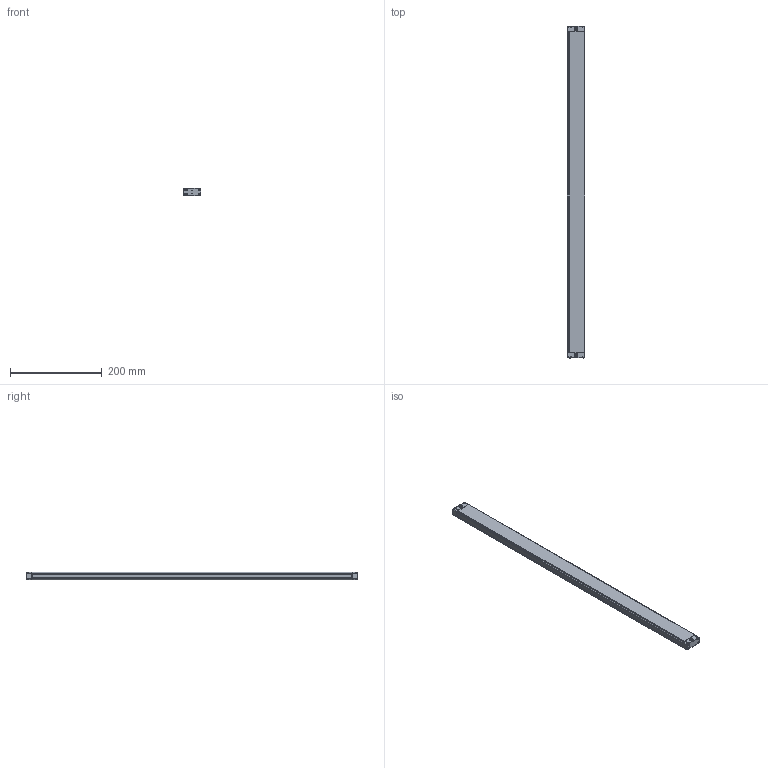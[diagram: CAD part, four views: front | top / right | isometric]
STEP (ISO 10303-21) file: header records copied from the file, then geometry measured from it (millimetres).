
FILE_DESCRIPTION((''),'2;1');
FILE_NAME('EB15--3610_ASM','2021-07-22T11:27:37',('18720616900'),(''),'CREO PARAMETRIC BY PTC INC, 2019010','CREO PARAMETRIC BY PTC INC, 2019010','');
FILE_SCHEMA(('CONFIG_CONTROL_DESIGN'));
Length unit declared in the file: millimetre
Products named in the file (6): EB15-00; EB15-000; EB15-0003; EB15-0004; ST-3-12; EB15--3610_ASM
Assembly tree (12 placements, depth 2):
  EB15--3610_ASM
    EB15-00
    EB15-000
    EB15-0003
    EB15-0004
    ST-3-12  x8
Bounding box: 39.15 x 725 x 15.8 mm (x, y, z)
Volume: 435523.8 mm3; surface area: 107279.3 mm2
Topology: 12 solids, 12 shells, 827 faces, 2188 edges, 1368 vertices
Faces by surface type: plane 242, bspline 188, cone 176, cylinder 165, torus 40, sphere 16
Entity records: 16044 total; most frequent: CARTESIAN_POINT 7660, ORIENTED_EDGE 1804, DIRECTION 1603, EDGE_CURVE 902, AXIS2_PLACEMENT_3D 577, VERTEX_POINT 563, VECTOR 449, LINE 449
